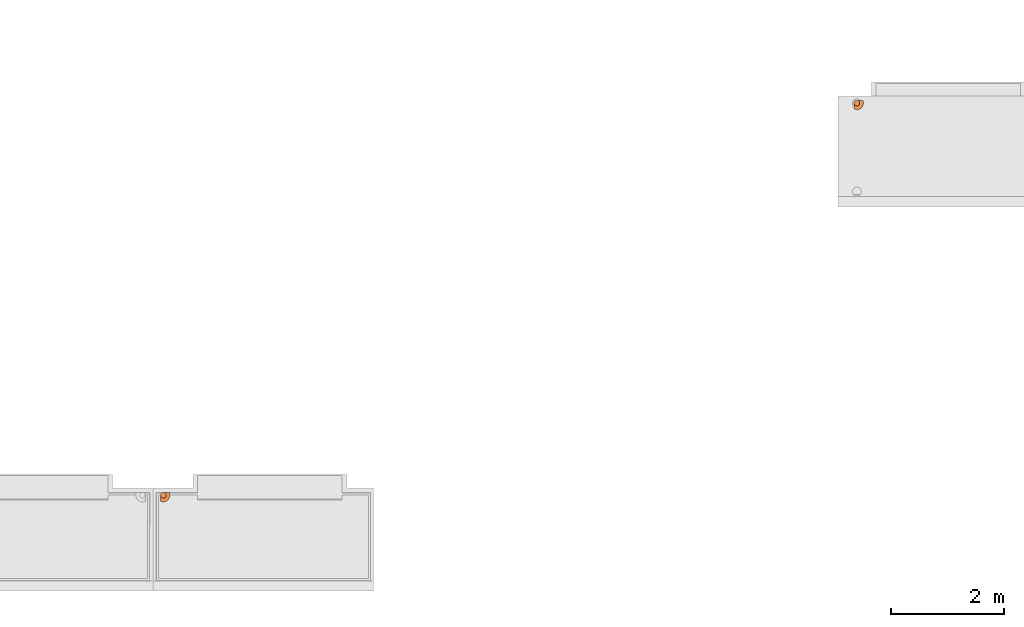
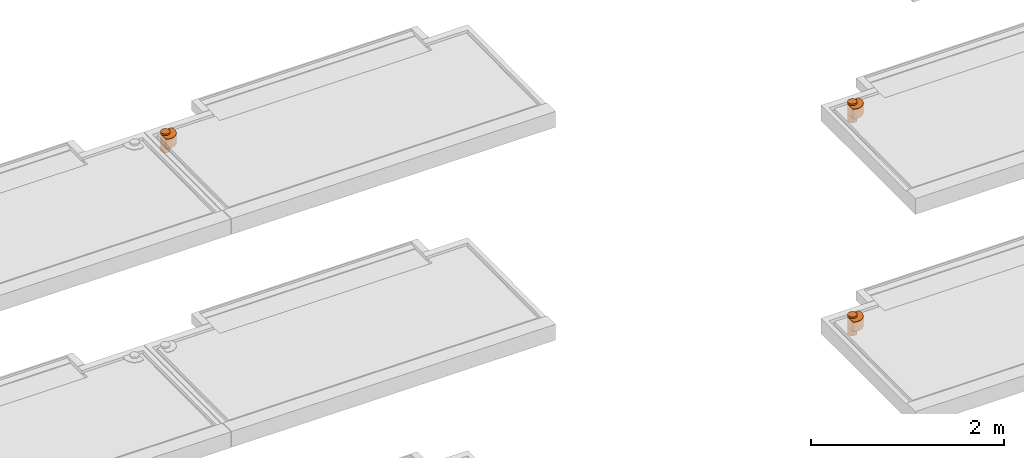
# One storey, part 27 of 31: 3 proxies, 3 elements without a shape of their own.
"""IFC2X3 building model written with IfcOpenShell, lengths in centimetres."""

from ifc_helpers import new_model, entity, si_unit, converted_unit, derived_unit, direction, frame, origin, place, context, subcontext, project, spatial, faceted_brep, source, transform, mapped, material, type_object, type_shapes, element, aggregate, save


model = new_model("IFC2X3")

# Units and contexts
model_context = context("Model", 3, precision=0.001, world=origin(), true_north=direction((6.12303176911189e-17, 1.0)))
body_context = subcontext(model_context, "Body", "Model", "MODEL_VIEW")
ifc_project = project(units=[si_unit("LENGTHUNIT", "METRE", prefix="CENTI"), si_unit("AREAUNIT", "SQUARE_METRE"), si_unit("VOLUMEUNIT", "CUBIC_METRE"), converted_unit("PLANEANGLEUNIT", "DEGREE", entity("IfcRatioMeasure", 0.0174532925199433), si_unit("PLANEANGLEUNIT", "RADIAN"), dimensions=[0, 0, 0, 0, 0, 0, 0]), si_unit("MASSUNIT", "GRAM", prefix="KILO"), derived_unit("MASSDENSITYUNIT", [(si_unit("MASSUNIT", "GRAM", prefix="KILO"), 1), (si_unit("LENGTHUNIT", "METRE"), -3)]), si_unit("TIMEUNIT", "SECOND"), si_unit("FREQUENCYUNIT", "HERTZ"), si_unit("THERMODYNAMICTEMPERATUREUNIT", "DEGREE_CELSIUS"), derived_unit("THERMALTRANSMITTANCEUNIT", [(si_unit("MASSUNIT", "GRAM", prefix="KILO"), 1), (si_unit("THERMODYNAMICTEMPERATUREUNIT", "KELVIN"), -1), (si_unit("TIMEUNIT", "SECOND"), -3)]), derived_unit("VOLUMETRICFLOWRATEUNIT", [(si_unit("LENGTHUNIT", "METRE"), 3), (si_unit("TIMEUNIT", "SECOND"), -1)]), si_unit("ELECTRICCURRENTUNIT", "AMPERE"), si_unit("ELECTRICVOLTAGEUNIT", "VOLT"), si_unit("POWERUNIT", "WATT"), si_unit("FORCEUNIT", "NEWTON"), si_unit("ILLUMINANCEUNIT", "LUX"), si_unit("LUMINOUSFLUXUNIT", "LUMEN"), si_unit("LUMINOUSINTENSITYUNIT", "CANDELA"), derived_unit("USERDEFINED", [(si_unit("MASSUNIT", "GRAM", prefix="KILO"), -1), (si_unit("LENGTHUNIT", "METRE"), -2), (si_unit("TIMEUNIT", "SECOND"), 3), (si_unit("LUMINOUSFLUXUNIT", "LUMEN"), 1)]), derived_unit("LINEARVELOCITYUNIT", [(si_unit("LENGTHUNIT", "METRE"), 1), (si_unit("TIMEUNIT", "SECOND"), -1)]), si_unit("PRESSUREUNIT", "PASCAL"), derived_unit("USERDEFINED", [(si_unit("LENGTHUNIT", "METRE"), -2), (si_unit("MASSUNIT", "GRAM", prefix="KILO"), 1), (si_unit("TIMEUNIT", "SECOND"), -2)])], contexts=[model_context])

# Site, building, storey
site_placement = place(None, origin())
site = spatial("IfcSite", under=ifc_project, at=site_placement, Name="Default", CompositionType="ELEMENT")
building_placement = place(site_placement, origin())
building = spatial("IfcBuilding", under=site, at=building_placement, Name="CAGE 03", CompositionType="ELEMENT")
storey_placement = place(building_placement, frame((0.0, 0.0, -400.0)))
storey = spatial("IfcBuildingStorey", under=building, at=storey_placement, Name="±0.00", CompositionType="ELEMENT", Elevation=-400.0)

# Assembly, proxy
assembly_1_placement = place(storey_placement, origin())
assembly_1 = element("IfcElementAssembly", 1, at=assembly_1_placement, inside=storey, Name="Assemblage Modèles génériques:BALCON TYPE 01", ObjectType="Assemblage Modèles génériques:BALCON TYPE 01", AssemblyPlace="NOTDEFINED", PredefinedType="USERDEFINED")
ifc_material = material(Name="BBGO_Résa")
building_element_proxy_type_1 = type_object("IfcBuildingElementProxyType", Name="Siphon de balcon", PredefinedType="NOTDEFINED", material=ifc_material)
shared_shape_1 = source(origin(), body_context, "Body", "Brep", [
    faceted_brep([(6.68784336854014, 14.1595272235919, 9.69999999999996), (6.68784336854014, 14.1595272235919, 0.0), (6.18834125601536, 12.9536224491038, 0.0), (6.18834125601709, 12.9536224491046, 9.69999999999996), (6.68784336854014, 14.1595272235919, 22.0), (6.18834125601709, 12.9536224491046, 22.0), (6.18834125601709, 12.9536224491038, 24.0), (6.68784336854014, 14.1595272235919, 24.0), (6.0179703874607, 11.6595272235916, 0.0), (6.0179703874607, 11.6595272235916, 9.69999999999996), (6.0179703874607, 11.6595272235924, 22.0), (6.0179703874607, 11.6595272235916, 24.0), (6.18834125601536, 10.3654319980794, 9.69999999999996), (6.18834125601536, 10.3654319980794, 0.0), (6.68784336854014, 9.15952722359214, 0.0), (6.68784336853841, 9.15952722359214, 9.69999999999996), (6.18834125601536, 10.3654319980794, 22.0), (6.68784336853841, 9.15952722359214, 22.0), (6.68784336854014, 9.15952722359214, 24.0), (6.18834125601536, 10.3654319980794, 24.0), (7.48243648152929, 8.12399331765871, 0.0), (7.48243648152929, 8.12399331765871, 9.69999999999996), (7.48243648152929, 8.12399331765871, 24.0), (7.48243648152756, 8.12399331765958, 22.0), (7.48243648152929, 15.1950611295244, 9.69999999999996), (7.48243648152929, 15.1950611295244, 0.0), (7.48243648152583, 15.1950611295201, 22.0), (7.48243648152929, 15.1950611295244, 24.0), (8.51797038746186, 7.32940020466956, 9.69999999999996), (8.51797038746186, 7.32940020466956, 0.0), (9.72387516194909, 6.82989809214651, 0.0), (9.72387516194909, 6.82989809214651, 9.69999999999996), (8.51797038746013, 7.32940020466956, 22.0), (9.72387516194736, 6.82989809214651, 22.0), (9.72387516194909, 6.82989809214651, 24.0), (8.51797038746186, 7.32940020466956, 24.0), (11.0179703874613, 6.65952722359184, 0.0), (11.0179703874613, 6.65952722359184, 9.69999999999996), (11.0179703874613, 6.65952722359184, 22.0), (11.0179703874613, 6.65952722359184, 24.0), (12.3120656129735, 6.82989809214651, 9.69999999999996), (12.3120656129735, 6.82989809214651, 0.0), (13.5179703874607, 7.32940020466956, 0.0), (13.5179703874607, 7.32940020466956, 9.69999999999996), (12.3120656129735, 6.82989809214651, 22.0), (13.5179703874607, 7.32940020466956, 22.0), (13.5179703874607, 7.32940020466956, 24.0), (12.3120656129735, 6.82989809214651, 24.0), (14.5535042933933, 8.12399331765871, 0.0), (14.5535042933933, 8.12399331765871, 9.69999999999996), (14.5535042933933, 8.12399331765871, 22.0), (14.5535042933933, 8.12399331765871, 24.0), (15.3480974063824, 14.1595272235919, 22.0), (15.8475995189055, 12.9536224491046, 22.0), (16.0179703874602, 11.6595272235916, 22.0), (15.8475995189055, 10.3654319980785, 22.0), (15.3480974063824, 9.15952722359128, 22.0), (0.159527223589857, 7.87215187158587, 22.0), (1.41532336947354, 5.33187598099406, 22.0), (3.25417812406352, 3.17580577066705, 22.0), (5.56443893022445, 1.53485465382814, 22.0), (8.2058301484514, 0.508658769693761, 22.0), (11.0179703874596, 0.15952722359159, 22.0), (13.8301106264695, 0.508658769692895, 22.0), (16.4715018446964, 1.5348546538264, 22.0), (18.7817626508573, 3.17580577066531, 22.0), (20.6206174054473, 5.33187598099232, 22.0), (21.876413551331, 7.87215187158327, 22.0), (14.5535042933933, 15.1950611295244, 22.0), (15.3480974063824, 9.15952722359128, 9.69999999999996), (15.8475995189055, 10.3654319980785, 9.69999999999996), (16.0179703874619, 11.6595272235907, 9.69999999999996), (15.8475995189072, 12.9536224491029, 9.69999999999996), (15.3480974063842, 14.1595272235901, 9.69999999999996), (14.5535042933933, 15.1950611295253, 9.69999999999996), (21.876413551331, 7.87215187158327, 9.69999999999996), (20.6206174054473, 5.33187598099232, 9.69999999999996), (18.7817626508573, 3.17580577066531, 9.69999999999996), (16.4715018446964, 1.5348546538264, 9.69999999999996), (13.8301106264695, 0.508658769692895, 9.69999999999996), (11.0179703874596, 0.15952722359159, 9.69999999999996), (8.2058301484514, 0.508658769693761, 9.69999999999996), (5.56443893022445, 1.53485465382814, 9.69999999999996), (3.25417812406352, 3.17580577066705, 9.69999999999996), (1.41532336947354, 5.33187598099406, 9.69999999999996), (0.159527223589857, 7.87215187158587, 9.69999999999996), (0.159527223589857, 7.87215187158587, 21.3763717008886), (21.876413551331, 7.87215187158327, 21.5299497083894), (15.3480974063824, 9.15952722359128, 24.0), (15.8475995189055, 10.3654319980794, 24.0), (16.0179703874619, 11.6595272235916, 24.0), (15.8475995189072, 12.9536224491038, 24.0), (15.3480974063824, 14.159527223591, 24.0), (14.5535042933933, 15.1950611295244, 24.0), (13.5179703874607, 15.9896542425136, 24.0), (12.3120656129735, 16.4891563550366, 24.0), (11.0179703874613, 16.6595272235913, 24.0), (9.72387516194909, 16.4891563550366, 24.0), (8.51797038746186, 15.9896542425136, 24.0), (15.3480974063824, 14.159527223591, 0.0), (15.8475995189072, 12.9536224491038, 0.0), (16.0179703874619, 11.6595272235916, 0.0), (15.8475995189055, 10.3654319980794, 0.0), (15.3480974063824, 9.15952722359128, 0.0), (8.51797038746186, 15.9896542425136, 0.0), (9.72387516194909, 16.4891563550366, 0.0), (11.0179703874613, 16.6595272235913, 0.0), (12.3120656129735, 16.4891563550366, 0.0), (13.5179703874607, 15.9896542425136, 0.0), (14.5535042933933, 15.1950611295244, 0.0)], [[[0, 1, 2, 3]], [[4, 5, 6, 7]], [[8, 9, 3, 2]], [[5, 10, 11, 6]], [[12, 13, 14, 15]], [[16, 17, 18, 19]], [[8, 13, 12, 9]], [[10, 16, 19, 11]], [[15, 14, 20, 21]], [[22, 18, 17, 23]], [[1, 0, 24, 25]], [[26, 4, 7, 27]], [[28, 29, 30, 31]], [[32, 33, 34, 35]], [[36, 37, 31, 30]], [[33, 38, 39, 34]], [[40, 41, 42, 43]], [[44, 45, 46, 47]], [[36, 41, 40, 37]], [[38, 44, 47, 39]], [[43, 42, 48, 49]], [[45, 50, 51, 46]], [[29, 28, 21, 20]], [[32, 35, 22, 23]], [[52, 53, 54, 55, 56, 50, 45, 44, 38, 33, 32, 23, 17, 16, 10, 5, 4, 26, 57, 58, 59, 60, 61, 62, 63, 64, 65, 66, 67, 68]], [[21, 28, 31, 37, 40, 43, 49, 69, 70, 71, 72, 73, 74, 75, 76, 77, 78, 79, 80, 81, 82, 83, 84, 85, 24, 0, 3, 9, 12, 15]], [[57, 26, 24, 85, 86]], [[86, 85, 84, 58, 57]], [[83, 59, 58, 84]], [[60, 82, 81, 61]], [[83, 82, 60, 59]], [[61, 81, 80, 62]], [[78, 64, 63, 79]], [[77, 65, 64, 78]], [[76, 75, 87, 67, 66]], [[77, 76, 66, 65]], [[79, 63, 62, 80]], [[68, 67, 87, 75, 74]], [[34, 39, 47, 46, 51, 88, 89, 90, 91, 92, 93, 94, 95, 96, 97, 98, 27, 7, 6, 11, 19, 18, 22, 35]], [[99, 100, 101, 102, 103, 48, 42, 41, 36, 30, 29, 20, 14, 13, 8, 2, 1, 25, 104, 105, 106, 107, 108, 109]], [[48, 103, 69, 49]], [[50, 56, 88, 51]], [[69, 103, 102, 70]], [[88, 56, 55, 89]], [[101, 100, 72, 71]], [[54, 53, 91, 90]], [[101, 71, 70, 102]], [[54, 90, 89, 55]], [[100, 99, 73, 72]], [[91, 53, 52, 92]], [[74, 109, 108, 94, 93, 68]], [[99, 109, 74, 73]], [[52, 68, 93, 92]], [[94, 108, 107, 95]], [[104, 25, 24, 26, 27, 98]], [[96, 106, 105, 97]], [[104, 98, 97, 105]], [[95, 107, 106, 96]]]),
])
type_shapes(building_element_proxy_type_1, [shared_shape_1])
proxy_1_placement = place(assembly_1_placement, frame((8323.81946933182, 4641.62525373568, 988.0), z_axis=(0.0, 0.0, 1.0), x_axis=(0.707106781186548, 0.707106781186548, 0.0)))
proxy_1 = element("IfcBuildingElementProxy", 2, at=proxy_1_placement, type_object=building_element_proxy_type_1, material=ifc_material, Name="Siphon de balcon2:Siphon de balcon", ObjectType="Siphon de balcon", context=body_context, shape_type="MappedRepresentation", body=[
    mapped(shared_shape_1, transform((0.0, 0.0, 0.0), scale=1.0)),
])
aggregate(assembly_1, [proxy_1])

assembly_2_placement = place(storey_placement, origin())
assembly_2 = element("IfcElementAssembly", 3, at=assembly_2_placement, inside=storey, Name="Assemblage Modèles génériques:BALCON TYPE 04", ObjectType="Assemblage Modèles génériques:BALCON TYPE 04", AssemblyPlace="NOTDEFINED", PredefinedType="USERDEFINED")
building_element_proxy_type_2 = type_object("IfcBuildingElementProxyType", Name="Siphon de balcon", PredefinedType="NOTDEFINED", material=ifc_material)
shared_shape_2 = source(origin(), body_context, "Body", "Brep", [
    faceted_brep([(6.68784336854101, 14.159527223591, 9.69999999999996), (6.68784336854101, 14.1595272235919, 0.0), (6.18834125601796, 12.9536224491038, 0.0), (6.18834125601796, 12.9536224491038, 9.69999999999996), (6.68784336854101, 14.1595272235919, 22.0), (6.18834125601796, 12.9536224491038, 22.0), (6.18834125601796, 12.9536224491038, 24.0), (6.68784336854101, 14.1595272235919, 24.0), (6.01797038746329, 11.6595272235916, 0.0), (6.01797038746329, 11.6595272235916, 9.69999999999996), (6.01797038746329, 11.6595272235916, 22.0), (6.01797038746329, 11.6595272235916, 24.0), (6.18834125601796, 10.3654319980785, 9.69999999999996), (6.18834125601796, 10.3654319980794, 0.0), (6.68784336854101, 9.15952722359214, 0.0), (6.68784336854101, 9.15952722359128, 9.69999999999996), (6.18834125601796, 10.3654319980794, 22.0), (6.68784336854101, 9.15952722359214, 22.0), (6.68784336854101, 9.15952722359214, 24.0), (6.18834125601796, 10.3654319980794, 24.0), (7.48243648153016, 8.12399331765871, 0.0), (7.48243648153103, 8.12399331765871, 9.69999999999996), (7.48243648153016, 8.12399331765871, 24.0), (7.48243648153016, 8.12399331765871, 22.0), (7.48243648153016, 15.1950611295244, 9.69999999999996), (7.48243648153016, 15.1950611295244, 0.0), (7.48243648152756, 15.1950611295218, 22.0), (7.48243648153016, 15.1950611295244, 24.0), (8.51797038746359, 7.32940020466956, 9.69999999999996), (8.51797038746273, 7.32940020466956, 0.0), (9.72387516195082, 6.82989809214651, 0.0), (9.72387516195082, 6.82989809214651, 9.69999999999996), (8.51797038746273, 7.32940020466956, 22.0), (9.72387516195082, 6.82989809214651, 22.0), (9.72387516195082, 6.82989809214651, 24.0), (8.51797038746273, 7.32940020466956, 24.0), (11.017970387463, 6.65952722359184, 0.0), (11.017970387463, 6.65952722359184, 9.69999999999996), (11.017970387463, 6.65952722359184, 22.0), (11.017970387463, 6.65952722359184, 24.0), (12.3120656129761, 6.82989809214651, 9.69999999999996), (12.3120656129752, 6.82989809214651, 0.0), (13.5179703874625, 7.32940020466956, 0.0), (13.5179703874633, 7.32940020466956, 9.69999999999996), (12.3120656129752, 6.82989809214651, 22.0), (13.5179703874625, 7.32940020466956, 22.0), (13.5179703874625, 7.32940020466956, 24.0), (12.3120656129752, 6.82989809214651, 24.0), (14.5535042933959, 8.12399331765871, 0.0), (14.5535042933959, 8.12399331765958, 9.69999999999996), (14.5535042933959, 8.12399331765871, 22.0), (14.5535042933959, 8.12399331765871, 24.0), (15.348097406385, 14.1595272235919, 22.0), (15.8475995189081, 12.9536224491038, 22.0), (16.0179703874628, 11.6595272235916, 22.0), (15.8475995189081, 10.3654319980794, 22.0), (15.348097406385, 9.15952722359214, 22.0), (0.15952722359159, 7.87215187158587, 22.0), (1.41532336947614, 5.33187598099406, 22.0), (3.25417812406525, 3.17580577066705, 22.0), (5.56443893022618, 1.53485465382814, 22.0), (8.20583014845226, 0.508658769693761, 22.0), (11.0179703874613, 0.15952722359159, 22.0), (13.8301106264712, 0.508658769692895, 22.0), (16.4715018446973, 1.5348546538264, 22.0), (18.7817626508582, 3.17580577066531, 22.0), (20.620617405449, 5.33187598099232, 22.0), (21.8764135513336, 7.87215187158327, 22.0), (14.5535042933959, 15.1950611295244, 22.0), (15.348097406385, 9.15952722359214, 9.69999999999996), (15.8475995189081, 10.3654319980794, 9.69999999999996), (16.0179703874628, 11.6595272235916, 9.69999999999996), (15.8475995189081, 12.9536224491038, 9.69999999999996), (15.348097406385, 14.159527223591, 9.69999999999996), (14.5535042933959, 15.1950611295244, 9.69999999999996), (21.8764135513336, 7.87215187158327, 9.69999999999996), (20.620617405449, 5.33187598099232, 9.69999999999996), (18.7817626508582, 3.17580577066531, 9.69999999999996), (16.4715018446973, 1.5348546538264, 9.69999999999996), (13.8301106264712, 0.508658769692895, 9.69999999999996), (11.0179703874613, 0.15952722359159, 9.69999999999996), (8.20583014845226, 0.508658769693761, 9.69999999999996), (5.56443893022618, 1.53485465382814, 9.69999999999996), (3.25417812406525, 3.17580577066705, 9.69999999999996), (1.41532336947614, 5.33187598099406, 9.69999999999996), (0.15952722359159, 7.87215187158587, 9.69999999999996), (0.15952722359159, 7.87215187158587, 21.3763717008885), (21.8764135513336, 7.87215187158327, 21.5299497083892), (15.348097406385, 9.15952722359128, 24.0), (15.8475995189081, 10.3654319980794, 24.0), (16.0179703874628, 11.6595272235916, 24.0), (15.8475995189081, 12.9536224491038, 24.0), (15.348097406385, 14.159527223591, 24.0), (14.5535042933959, 15.1950611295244, 24.0), (13.5179703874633, 15.9896542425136, 24.0), (12.3120656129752, 16.4891563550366, 24.0), (11.017970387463, 16.6595272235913, 24.0), (9.72387516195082, 16.4891563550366, 24.0), (8.51797038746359, 15.9896542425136, 24.0), (15.8475995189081, 10.3654319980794, 0.0), (15.348097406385, 9.15952722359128, 0.0), (8.51797038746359, 15.9896542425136, 0.0), (9.72387516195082, 16.4891563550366, 0.0), (11.017970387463, 16.6595272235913, 0.0), (12.3120656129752, 16.4891563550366, 0.0), (13.5179703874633, 15.9896542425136, 0.0), (14.5535042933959, 15.1950611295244, 0.0), (15.348097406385, 14.159527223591, 0.0), (15.8475995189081, 12.9536224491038, 0.0), (16.0179703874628, 11.6595272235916, 0.0)], [[[0, 1, 2, 3]], [[4, 5, 6, 7]], [[8, 9, 3, 2]], [[5, 10, 11, 6]], [[12, 13, 14, 15]], [[16, 17, 18, 19]], [[8, 13, 12, 9]], [[10, 16, 19, 11]], [[15, 14, 20, 21]], [[22, 18, 17, 23]], [[1, 0, 24, 25]], [[26, 4, 7, 27]], [[28, 29, 30, 31]], [[32, 33, 34, 35]], [[36, 37, 31, 30]], [[33, 38, 39, 34]], [[40, 41, 42, 43]], [[44, 45, 46, 47]], [[36, 41, 40, 37]], [[38, 44, 47, 39]], [[43, 42, 48, 49]], [[45, 50, 51, 46]], [[29, 28, 21, 20]], [[32, 35, 22, 23]], [[52, 53, 54, 55, 56, 50, 45, 44, 38, 33, 32, 23, 17, 16, 10, 5, 4, 26, 57, 58, 59, 60, 61, 62, 63, 64, 65, 66, 67, 68]], [[21, 28, 31, 37, 40, 43, 49, 69, 70, 71, 72, 73, 74, 75, 76, 77, 78, 79, 80, 81, 82, 83, 84, 85, 24, 0, 3, 9, 12, 15]], [[57, 26, 24, 85, 86]], [[86, 85, 84, 58, 57]], [[83, 59, 58, 84]], [[60, 82, 81, 61]], [[83, 82, 60, 59]], [[61, 81, 80, 62]], [[78, 64, 63, 79]], [[77, 65, 64, 78]], [[76, 75, 87, 67, 66]], [[77, 76, 66, 65]], [[79, 63, 62, 80]], [[68, 67, 87, 75, 74]], [[18, 22, 35, 34, 39, 47, 46, 51, 88, 89, 90, 91, 92, 93, 94, 95, 96, 97, 98, 27, 7, 6, 11, 19]], [[99, 100, 48, 42, 41, 36, 30, 29, 20, 14, 13, 8, 2, 1, 25, 101, 102, 103, 104, 105, 106, 107, 108, 109]], [[48, 100, 69, 49]], [[51, 50, 56, 88]], [[99, 70, 69, 100]], [[56, 55, 89, 88]], [[109, 108, 72, 71]], [[54, 53, 91, 90]], [[109, 71, 70, 99]], [[54, 90, 89, 55]], [[108, 107, 73, 72]], [[91, 53, 52, 92]], [[74, 106, 105, 94, 93, 68]], [[107, 106, 74, 73]], [[52, 68, 93, 92]], [[94, 105, 104, 95]], [[101, 25, 24, 26, 27, 98]], [[96, 103, 102, 97]], [[101, 98, 97, 102]], [[95, 104, 103, 96]]]),
])
type_shapes(building_element_proxy_type_2, [shared_shape_2])
proxy_2_placement = place(assembly_2_placement, frame((7100.31946933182, 3949.62525373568, 1798.0), z_axis=(0.0, 0.0, 1.0), x_axis=(0.707106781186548, 0.707106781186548, 0.0)))
proxy_2 = element("IfcBuildingElementProxy", 4, at=proxy_2_placement, type_object=building_element_proxy_type_2, material=ifc_material, Name="Siphon de balcon11:Siphon de balcon", ObjectType="Siphon de balcon", context=body_context, shape_type="MappedRepresentation", body=[
    mapped(shared_shape_2, transform((0.0, 0.0, 0.0), scale=1.0)),
])
aggregate(assembly_2, [proxy_2])

assembly_3_placement = place(storey_placement, origin())
assembly_3 = element("IfcElementAssembly", 5, at=assembly_3_placement, inside=storey, Name="Assemblage Modèles génériques:BALCON TYPE 01", ObjectType="Assemblage Modèles génériques:BALCON TYPE 01", AssemblyPlace="NOTDEFINED", PredefinedType="USERDEFINED")
building_element_proxy_type_3 = type_object("IfcBuildingElementProxyType", Name="Siphon de balcon", PredefinedType="NOTDEFINED", material=ifc_material)
shared_shape_3 = source(origin(), body_context, "Body", "Brep", [
    faceted_brep([(6.68784336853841, 14.159527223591, 9.69999999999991), (6.68784336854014, 14.1595272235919, 0.0), (6.18834125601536, 12.9536224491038, 0.0), (6.18834125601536, 12.9536224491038, 9.69999999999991), (6.68784336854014, 14.1595272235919, 22.0), (6.18834125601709, 12.9536224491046, 22.0), (6.18834125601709, 12.9536224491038, 24.0), (6.68784336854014, 14.1595272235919, 24.0), (6.0179703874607, 11.6595272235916, 0.0), (6.0179703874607, 11.6595272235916, 9.69999999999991), (6.0179703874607, 11.6595272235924, 22.0), (6.0179703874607, 11.6595272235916, 24.0), (6.18834125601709, 10.3654319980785, 9.69999999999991), (6.18834125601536, 10.3654319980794, 0.0), (6.68784336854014, 9.15952722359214, 0.0), (6.68784336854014, 9.15952722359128, 9.69999999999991), (6.18834125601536, 10.3654319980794, 22.0), (6.68784336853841, 9.15952722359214, 22.0), (6.68784336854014, 9.15952722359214, 24.0), (6.18834125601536, 10.3654319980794, 24.0), (7.48243648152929, 8.12399331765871, 0.0), (7.48243648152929, 8.12399331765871, 9.69999999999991), (7.48243648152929, 8.12399331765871, 24.0), (7.48243648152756, 8.12399331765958, 22.0), (7.48243648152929, 15.1950611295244, 9.69999999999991), (7.48243648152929, 15.1950611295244, 0.0), (7.48243648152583, 15.1950611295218, 22.0), (7.48243648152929, 15.1950611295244, 24.0), (8.51797038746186, 7.32940020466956, 9.69999999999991), (8.51797038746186, 7.32940020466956, 0.0), (9.72387516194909, 6.82989809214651, 0.0), (9.72387516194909, 6.82989809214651, 9.69999999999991), (8.51797038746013, 7.32940020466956, 22.0), (9.72387516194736, 6.82989809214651, 22.0), (9.72387516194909, 6.82989809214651, 24.0), (8.51797038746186, 7.32940020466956, 24.0), (11.0179703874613, 6.65952722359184, 0.0), (11.0179703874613, 6.65952722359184, 9.69999999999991), (11.0179703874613, 6.65952722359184, 22.0), (11.0179703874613, 6.65952722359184, 24.0), (12.3120656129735, 6.82989809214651, 9.69999999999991), (12.3120656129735, 6.82989809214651, 0.0), (13.5179703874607, 7.32940020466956, 0.0), (13.5179703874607, 7.32940020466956, 9.69999999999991), (12.3120656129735, 6.82989809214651, 22.0), (13.5179703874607, 7.32940020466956, 22.0), (13.5179703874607, 7.32940020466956, 24.0), (12.3120656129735, 6.82989809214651, 24.0), (14.5535042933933, 8.12399331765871, 0.0), (14.5535042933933, 8.12399331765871, 9.69999999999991), (14.5535042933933, 8.12399331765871, 22.0), (14.5535042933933, 8.12399331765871, 24.0), (15.3480974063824, 14.1595272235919, 22.0), (15.8475995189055, 12.9536224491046, 22.0), (16.0179703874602, 11.6595272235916, 22.0), (15.8475995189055, 10.3654319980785, 22.0), (15.3480974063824, 9.15952722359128, 22.0), (0.159527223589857, 7.87215187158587, 22.0), (1.41532336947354, 5.33187598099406, 22.0), (3.25417812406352, 3.17580577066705, 22.0), (5.56443893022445, 1.53485465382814, 22.0), (8.2058301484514, 0.508658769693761, 22.0), (11.0179703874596, 0.15952722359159, 22.0), (13.8301106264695, 0.508658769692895, 22.0), (16.4715018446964, 1.5348546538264, 22.0), (18.7817626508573, 3.17580577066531, 22.0), (20.6206174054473, 5.33187598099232, 22.0), (21.876413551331, 7.87215187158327, 22.0), (14.5535042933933, 15.1950611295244, 22.0), (15.3480974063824, 9.15952722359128, 9.69999999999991), (15.8475995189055, 10.3654319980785, 9.69999999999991), (16.0179703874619, 11.6595272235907, 9.69999999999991), (15.8475995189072, 12.9536224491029, 9.69999999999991), (15.3480974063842, 14.1595272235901, 9.69999999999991), (14.5535042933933, 15.1950611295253, 9.69999999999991), (21.876413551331, 7.87215187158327, 9.69999999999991), (20.6206174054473, 5.33187598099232, 9.69999999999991), (18.7817626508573, 3.17580577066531, 9.69999999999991), (16.4715018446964, 1.5348546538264, 9.69999999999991), (13.8301106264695, 0.508658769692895, 9.69999999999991), (11.0179703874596, 0.15952722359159, 9.69999999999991), (8.2058301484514, 0.508658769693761, 9.69999999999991), (5.56443893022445, 1.53485465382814, 9.69999999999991), (3.25417812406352, 3.17580577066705, 9.69999999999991), (1.41532336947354, 5.33187598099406, 9.69999999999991), (0.159527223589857, 7.87215187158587, 9.69999999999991), (0.159527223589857, 7.87215187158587, 21.3763717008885), (21.876413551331, 7.87215187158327, 21.5299497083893), (15.3480974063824, 9.15952722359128, 24.0), (15.8475995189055, 10.3654319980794, 24.0), (16.0179703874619, 11.6595272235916, 24.0), (15.8475995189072, 12.9536224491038, 24.0), (15.3480974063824, 14.159527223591, 24.0), (14.5535042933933, 15.1950611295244, 24.0), (13.5179703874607, 15.9896542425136, 24.0), (12.3120656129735, 16.4891563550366, 24.0), (11.0179703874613, 16.6595272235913, 24.0), (9.72387516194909, 16.4891563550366, 24.0), (8.51797038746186, 15.9896542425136, 24.0), (15.3480974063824, 14.159527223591, 0.0), (15.8475995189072, 12.9536224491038, 0.0), (16.0179703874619, 11.6595272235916, 0.0), (15.8475995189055, 10.3654319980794, 0.0), (15.3480974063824, 9.15952722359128, 0.0), (8.51797038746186, 15.9896542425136, 0.0), (9.72387516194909, 16.4891563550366, 0.0), (11.0179703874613, 16.6595272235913, 0.0), (12.3120656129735, 16.4891563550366, 0.0), (13.5179703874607, 15.9896542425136, 0.0), (14.5535042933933, 15.1950611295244, 0.0)], [[[0, 1, 2, 3]], [[4, 5, 6, 7]], [[8, 9, 3, 2]], [[5, 10, 11, 6]], [[12, 13, 14, 15]], [[16, 17, 18, 19]], [[8, 13, 12, 9]], [[10, 16, 19, 11]], [[15, 14, 20, 21]], [[22, 18, 17, 23]], [[1, 0, 24, 25]], [[26, 4, 7, 27]], [[28, 29, 30, 31]], [[32, 33, 34, 35]], [[36, 37, 31, 30]], [[33, 38, 39, 34]], [[40, 41, 42, 43]], [[44, 45, 46, 47]], [[36, 41, 40, 37]], [[38, 44, 47, 39]], [[43, 42, 48, 49]], [[45, 50, 51, 46]], [[29, 28, 21, 20]], [[32, 35, 22, 23]], [[52, 53, 54, 55, 56, 50, 45, 44, 38, 33, 32, 23, 17, 16, 10, 5, 4, 26, 57, 58, 59, 60, 61, 62, 63, 64, 65, 66, 67, 68]], [[21, 28, 31, 37, 40, 43, 49, 69, 70, 71, 72, 73, 74, 75, 76, 77, 78, 79, 80, 81, 82, 83, 84, 85, 24, 0, 3, 9, 12, 15]], [[57, 26, 24, 85, 86]], [[86, 85, 84, 58, 57]], [[83, 59, 58, 84]], [[60, 82, 81, 61]], [[83, 82, 60, 59]], [[61, 81, 80, 62]], [[78, 64, 63, 79]], [[77, 65, 64, 78]], [[76, 75, 87, 67, 66]], [[77, 76, 66, 65]], [[79, 63, 62, 80]], [[68, 67, 87, 75, 74]], [[34, 39, 47, 46, 51, 88, 89, 90, 91, 92, 93, 94, 95, 96, 97, 98, 27, 7, 6, 11, 19, 18, 22, 35]], [[99, 100, 101, 102, 103, 48, 42, 41, 36, 30, 29, 20, 14, 13, 8, 2, 1, 25, 104, 105, 106, 107, 108, 109]], [[48, 103, 69, 49]], [[50, 56, 88, 51]], [[69, 103, 102, 70]], [[88, 56, 55, 89]], [[101, 100, 72, 71]], [[54, 53, 91, 90]], [[101, 71, 70, 102]], [[54, 90, 89, 55]], [[100, 99, 73, 72]], [[91, 53, 52, 92]], [[74, 109, 108, 94, 93, 68]], [[99, 109, 74, 73]], [[52, 68, 93, 92]], [[94, 108, 107, 95]], [[104, 25, 24, 26, 27, 98]], [[96, 106, 105, 97]], [[104, 98, 97, 105]], [[95, 107, 106, 96]]]),
])
type_shapes(building_element_proxy_type_3, [shared_shape_3])
proxy_3_placement = place(assembly_3_placement, frame((8323.81946933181, 4641.62525373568, 718.0), z_axis=(0.0, 0.0, 1.0), x_axis=(0.707106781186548, 0.707106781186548, 0.0)))
proxy_3 = element("IfcBuildingElementProxy", 6, at=proxy_3_placement, type_object=building_element_proxy_type_3, material=ifc_material, Name="Siphon de balcon14:Siphon de balcon", ObjectType="Siphon de balcon", context=body_context, shape_type="MappedRepresentation", body=[
    mapped(shared_shape_3, transform((0.0, 0.0, 0.0), scale=1.0)),
])
aggregate(assembly_3, [proxy_3])

save(model, "model.ifc")
